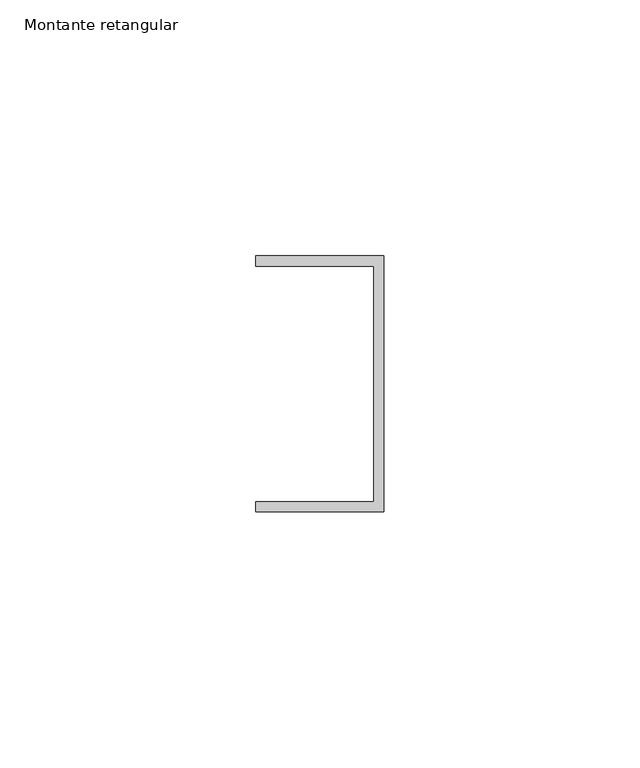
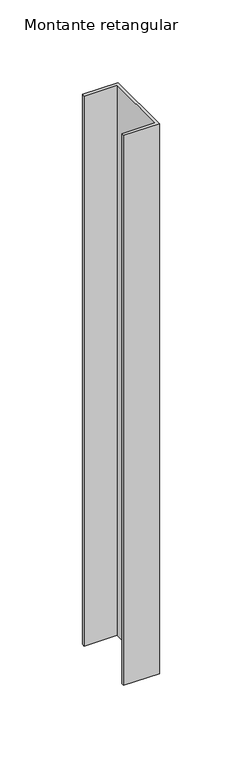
"""IFC4 building model written with IfcOpenShell, lengths in millimetres: member geometry, Montante retangular : FDE_MontanteVenezianaIndustrial_BordaOpção1_Ref50 (Alumínio Anodizado)."""

from ifc_helpers import new_model, si_unit, frame, origin, place, context, project, spatial, polyline, outline, extrude, source, transform, mapped, element, save


def montante_retangular_afd96132(model_context):
    return source(origin(), model_context, "Body", "SweptSolid", [
        extrude(outline(polyline([(0.0, 25.0), (0.0, -25.0), (-25.0, -25.0), (-25.0, -23.0), (-2.0, -23.0), (-2.0, 23.0), (-25.0, 23.0), (-25.0, 25.0), (0.0, 25.0)])), frame((0.0, 0.0, -406.5789473), z_axis=(0.0, 0.0, 1.0), x_axis=(1.0, 0.0, 0.0)), (0.0, 0.0, 1.0), 406.5789473),
    ])


if __name__ == "__main__":
    model = new_model("IFC4")
    model_context = context("Model", 3, world=origin())
    ifc_project = project(units=[si_unit("LENGTHUNIT", "METRE", prefix="MILLI")], contexts=[model_context])
    site = spatial("IfcSite", under=ifc_project)
    building = spatial("IfcBuilding", under=site)
    placement = place(None, origin())
    montante_retangular_shape = montante_retangular_afd96132(model_context)
    element("IfcMember", 1, ObjectType="Montante retangular : FDE_MontanteVenezianaIndustrial_BordaOpção1_Ref50 (Alumínio Anodizado)", at=placement, inside=building, context=model_context, shape_type="MappedRepresentation", body=[
        mapped(montante_retangular_shape, transform((0.0, 0.0, 0.0), x_axis=(1.0, 0.0, 0.0), y_axis=(0.0, 1.0, 0.0), z_axis=(0.0, 0.0, 1.0))),
    ])
    save(model, "model.ifc")
